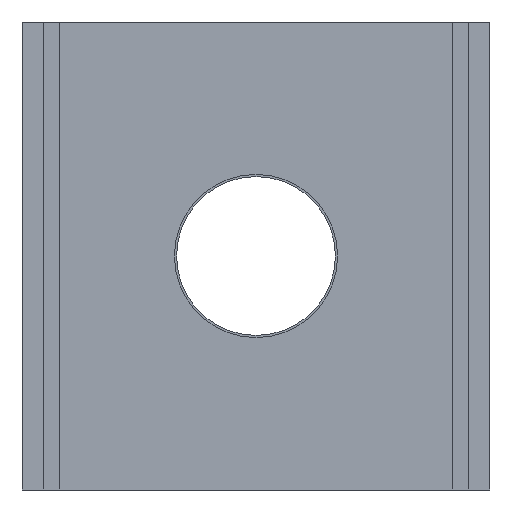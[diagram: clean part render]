
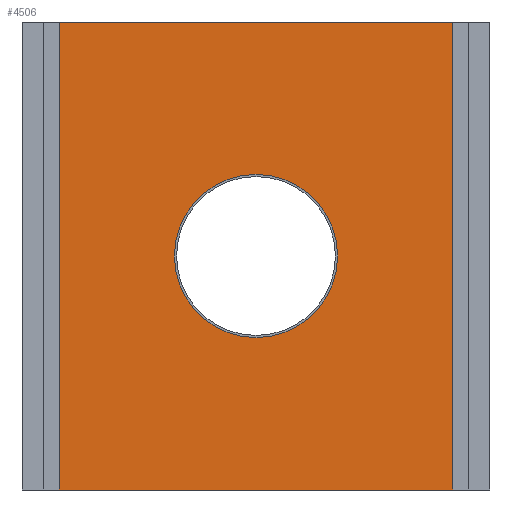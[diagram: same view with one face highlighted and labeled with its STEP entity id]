
A CAD part, front view. The second image highlights one B-rep face of the part: STEP entity #4506.
In plain terms, the highlighted planar face has unit normal (0, -1, 0).
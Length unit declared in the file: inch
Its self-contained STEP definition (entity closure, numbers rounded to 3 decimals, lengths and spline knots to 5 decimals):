
#3968=CARTESIAN_POINT('',(7.22441,-2.28346,8.60236));
#3969=VERTEX_POINT('',#3968);
#3970=CARTESIAN_POINT('',(-7.22441,-2.28346,8.60236));
#3971=VERTEX_POINT('',#3970);
#3972=CARTESIAN_POINT('',(7.22441,-2.28346,8.60236));
#3973=DIRECTION('',(-1.0,0.0,0.0));
#3974=VECTOR('',#3973,14.44882);
#3975=LINE('',#3972,#3974);
#3976=EDGE_CURVE('',#3969,#3971,#3975,.T.);
#4465=CARTESIAN_POINT('',(0.,-2.28346,0.0));
#4466=DIRECTION('',(0.0,-1.0,0.0));
#4467=DIRECTION('',(0.0,0.0,-1.0));
#4468=AXIS2_PLACEMENT_3D('',#4465,#4466,#4467);
#4469=PLANE('',#4468);
#4470=ORIENTED_EDGE('',*,*,#3976,.T.);
#4471=CARTESIAN_POINT('',(-7.22441,-2.28346,-8.60236));
#4472=VERTEX_POINT('',#4471);
#4473=CARTESIAN_POINT('',(-7.22441,-2.28346,-8.60236));
#4474=DIRECTION('',(0.0,0.0,1.0));
#4475=VECTOR('',#4474,17.20472);
#4476=LINE('',#4473,#4475);
#4477=EDGE_CURVE('',#4472,#3971,#4476,.T.);
#4478=ORIENTED_EDGE('',*,*,#4477,.F.);
#4479=CARTESIAN_POINT('',(7.22441,-2.28346,-8.60236));
#4480=VERTEX_POINT('',#4479);
#4481=CARTESIAN_POINT('',(-7.22441,-2.28346,-8.60236));
#4482=DIRECTION('',(1.0,0.0,0.0));
#4483=VECTOR('',#4482,14.44882);
#4484=LINE('',#4481,#4483);
#4485=EDGE_CURVE('',#4472,#4480,#4484,.T.);
#4486=ORIENTED_EDGE('',*,*,#4485,.T.);
#4487=CARTESIAN_POINT('',(7.22441,-2.28346,-8.60236));
#4488=DIRECTION('',(0.0,0.0,1.0));
#4489=VECTOR('',#4488,17.20472);
#4490=LINE('',#4487,#4489);
#4491=EDGE_CURVE('',#4480,#3969,#4490,.T.);
#4492=ORIENTED_EDGE('',*,*,#4491,.T.);
#4493=EDGE_LOOP('',(#4470,#4478,#4486,#4492));
#4494=FACE_OUTER_BOUND('',#4493,.T.);
#4495=CARTESIAN_POINT('',(3.,-2.28346,0.0));
#4496=VERTEX_POINT('',#4495);
#4497=CARTESIAN_POINT('',(0.,-2.28346,0.0));
#4498=DIRECTION('',(0.0,-1.0,0.0));
#4499=DIRECTION('',(1.0,0.0,0.0));
#4500=AXIS2_PLACEMENT_3D('',#4497,#4498,#4499);
#4501=CIRCLE('',#4500,3.);
#4502=EDGE_CURVE('',#4496,#4496,#4501,.T.);
#4503=ORIENTED_EDGE('',*,*,#4502,.F.);
#4504=EDGE_LOOP('',(#4503));
#4505=FACE_BOUND('',#4504,.T.);
#4506=ADVANCED_FACE('',(#4494,#4505),#4469,.T.);
